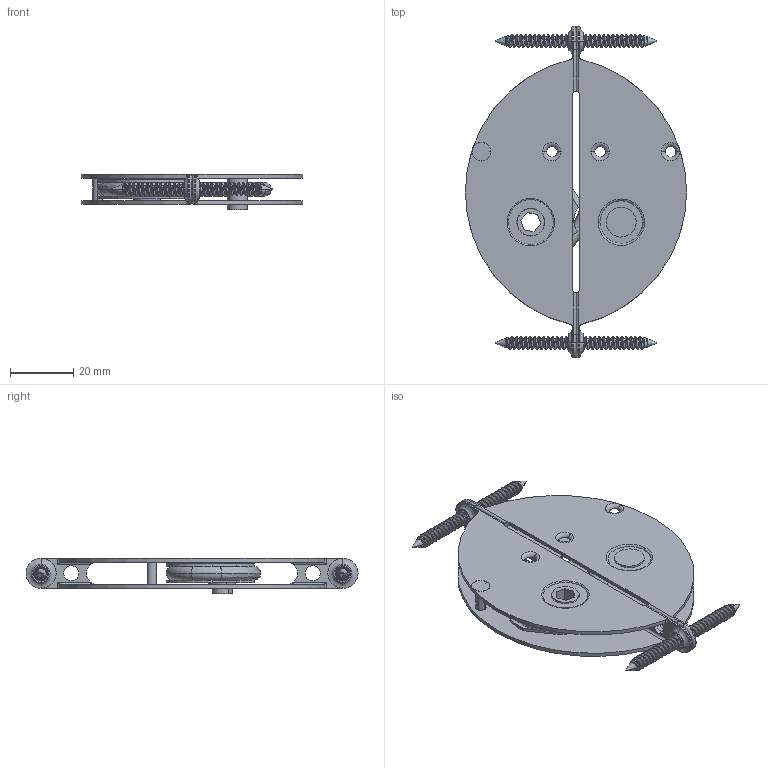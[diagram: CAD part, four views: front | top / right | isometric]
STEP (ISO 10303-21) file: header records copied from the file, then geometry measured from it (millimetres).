
FILE_DESCRIPTION (( 'STEP AP203' ), '1' );
FILE_NAME ('TDS 62-1.STEP', '2014-04-05T23:15:54', ( 'Owner' ), ( '' ), 'SwSTEP 2.0', 'SolidWorks 2011', '' );
FILE_SCHEMA (( 'CONFIG_CONTROL_DESIGN' ));
Length unit declared in the file: inch
Products named in the file (11): SMALL RIVET_.375 LG; TYPE 1 - SMALL S-HOOK; TYPE 1 - SMALL ACTUATOR; TDS 62-1; LARGE RIVET_.375 LG; #8 FHPS_90198A249; T2 SMALL HEX KEY; TYPE 1-SMALL S HOOK ASSY_TDS 36-4A; TYPE 1 - SMALL SPRING PLATE; R375-2S-562; S1125-2S-562
Assembly tree (13 placements, depth 3):
  TDS 62-1
    LARGE RIVET_.375 LG
    #8 FHPS_90198A249  x4
    R375-2S-562
    SMALL RIVET_.375 LG
    S1125-2S-562
    T2 SMALL HEX KEY
    TYPE 1-SMALL S HOOK ASSY_TDS 36-4A
      TYPE 1 - SMALL ACTUATOR
      TYPE 1 - SMALL S-HOOK
      TYPE 1 - SMALL SPRING PLATE
Bounding box: 69.85 x 104.78 x 11.23 mm (x, y, z)
Volume: 15645.9 mm3; surface area: 26575.5 mm2
Topology: 12 solids, 12 shells, 736 faces, 1929 edges, 1212 vertices
Faces by surface type: cylinder 314, plane 180, bspline 136, torus 60, cone 46
Entity records: 16745 total; most frequent: CARTESIAN_POINT 6493, ORIENTED_EDGE 1970, DIRECTION 1787, EDGE_CURVE 985, AXIS2_PLACEMENT_3D 680, VERTEX_POINT 618, EDGE_LOOP 441, LINE 427
